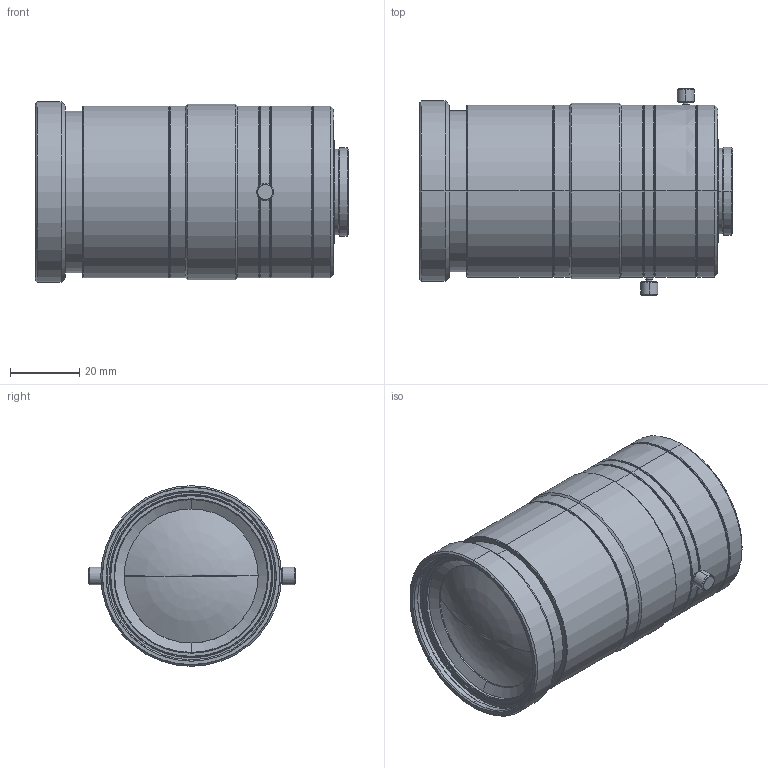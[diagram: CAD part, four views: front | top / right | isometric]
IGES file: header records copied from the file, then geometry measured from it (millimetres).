
Start section: SolidWorks IGES file using analytic representation for surfaces
Global section: file name: \\192.168.200.11\Development\3 製品\1 標準品\01 マクロレンズ\01 VS-LLD series\150 VS-LLD15(LLD15N)\10.3D外観モデル\VS-LLD15.IGS; native system: SolidWorks 2017; preprocessor: SolidWorks 2017; author: miura_vst; date: 171116.100224; units: millimetre
Bounding box: 90.1 x 59.5 x 52 mm (x, y, z)
Surface area: 21836.9 mm2 (no closed solid volume)
Topology: 0 solids, 0 shells, 159 faces, 2948 edges, 2946 vertices
Faces by surface type: revolution 136, bspline 23
